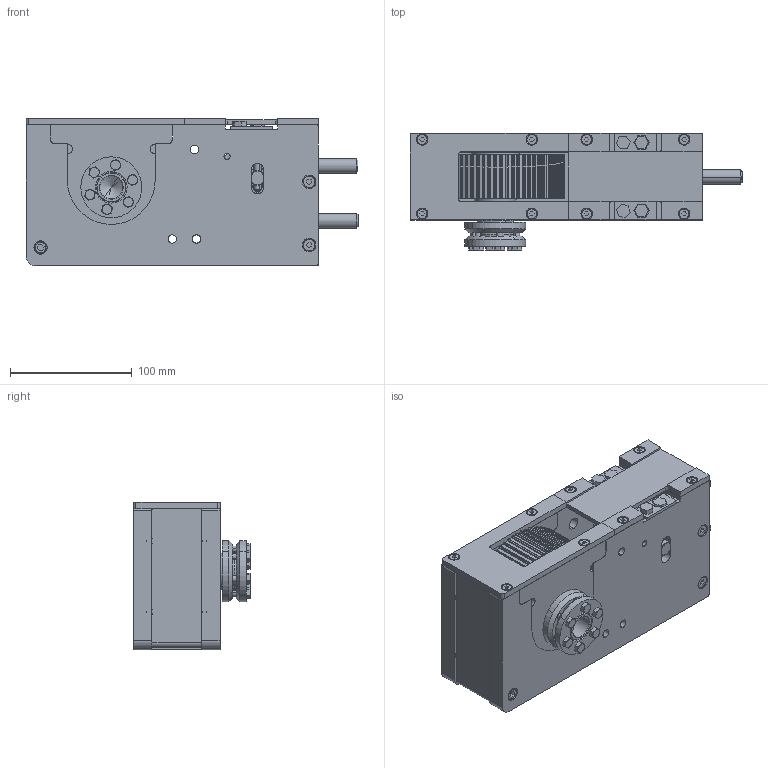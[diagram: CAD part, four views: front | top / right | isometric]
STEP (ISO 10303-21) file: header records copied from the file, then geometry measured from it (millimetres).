
FILE_DESCRIPTION (( 'STEP AP203' ), '1' );
FILE_NAME ('112.400.100.STEP', '2018-03-09T15:10:08', ( '' ), ( '' ), 'SwSTEP 2.0', 'SolidWorks 2016', '' );
FILE_SCHEMA (( 'CONFIG_CONTROL_DESIGN' ));
Length unit declared in the file: millimetre
Products named in the file (34): 112.400.008; viteTCEI-M6x35; 112.400.001; VITI TCEI TESTA BASSA DIN 7984_M12x40 UNI 5931; viteTEif-M6x16; 6201_2RSL_PART3; AnelloArrestoxAlberi12; 112.100.009; viteTEif-M6x60; 6201_2RSL_PART4; 112.400.007; 112.400.009; 6201_2RSL; 084.301.000 VITI ALUSIC_084.301.001; RCK19 - 24x50; mollaD12360x12,6; _6006-2RS1_PART3; 6201_2RSL_PART1; 6201_2RSL_PART5; VITI TSEI UNI 5933_M4x16 UNI 5933; 112.400.003; VITI TCEI UNI 5931_M6x60 UNI 5931; 112.400.004; _6006-2RS1_PART2; 112.400.005; 112.400.006; 112.400.100; _6006-2RS1_PART1; 6006-2RS1; 112.400.010; 112.100.012; 6201_2RSL_PART2; 112.400.002; 112.100.010
Assembly tree (71 placements, depth 3):
  112.400.100
    6201_2RSL  x2
      6201_2RSL_PART5
      6201_2RSL_PART4
      6201_2RSL_PART3
      6201_2RSL_PART2
      6201_2RSL_PART1
    6006-2RS1  x2
      _6006-2RS1_PART3
      _6006-2RS1_PART2
      _6006-2RS1_PART1
    viteTEif-M6x60  x2
    AnelloArrestoxAlberi12  x2
    viteTEif-M6x16  x2
    112.400.010  x2
    mollaD12360x12,6  x2
    viteTCEI-M6x35  x4
    112.400.001
    112.400.002
    112.400.003
    112.400.005
    112.400.006
    112.400.008
    112.400.007
    RCK19 - 24x50
    112.400.009
    084.301.000 VITI ALUSIC_084.301.001  x4
    VITI TSEI UNI 5933_M4x16 UNI 5933  x8
    VITI TCEI TESTA BASSA DIN 7984_M12x40 UNI 5931  x2
    VITI TCEI UNI 5931_M6x60 UNI 5931
    112.100.009
    112.100.010
    112.100.012  x2
    112.400.004
Bounding box: 272.5 x 96 x 121.2 mm (x, y, z)
Volume: 1428823.1 mm3; surface area: 382386.2 mm2
Topology: 103 solids, 103 shells, 2155 faces, 5405 edges, 3431 vertices
Faces by surface type: cylinder 864, plane 711, cone 336, torus 172, sphere 72
Entity records: 54305 total; most frequent: CARTESIAN_POINT 10137, DIRECTION 8933, ORIENTED_EDGE 7902, EDGE_CURVE 3951, AXIS2_PLACEMENT_3D 3455, VERTEX_POINT 2545, VECTOR 2023, LINE 2023
